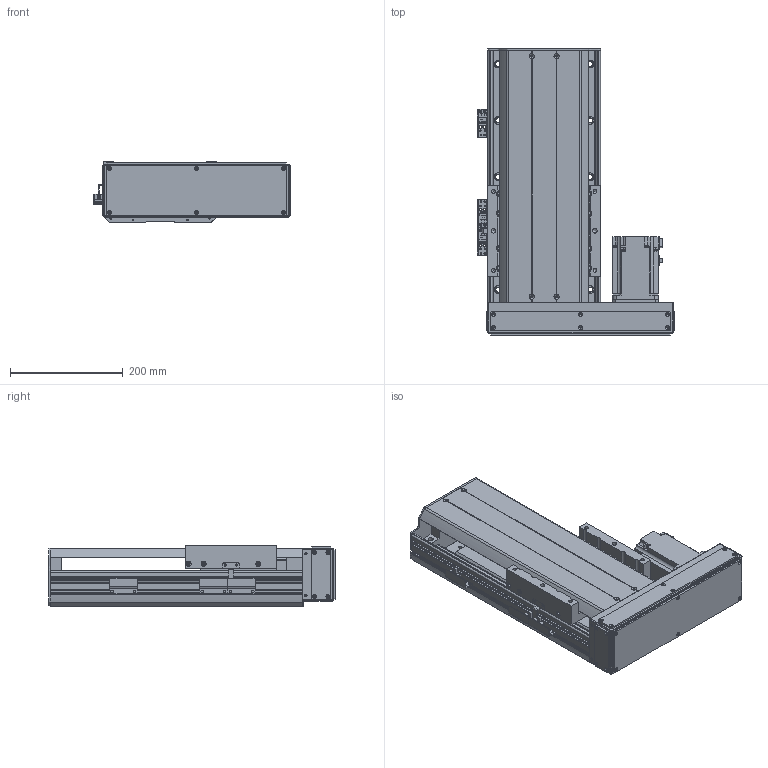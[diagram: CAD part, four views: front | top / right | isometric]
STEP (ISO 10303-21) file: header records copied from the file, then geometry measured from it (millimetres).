
FILE_DESCRIPTION(/* description */ ('MANUFACTURE'),/* implementation_level */ '2;1');
FILE_NAME(/* name */ '\\192.168.0.160\disk1\HAN SHIN Master\B-설계부문\C-표준\B-2024년\BC02-표준도면\+로봇 개선표준도면\홈페이지 표준 도면\홈페이지 최종 작업 폴더\3D\HR\HR200\HG200병렬\우병렬\HR200-R70-N-0200-L10.stp',/* time_stamp */ '2025-01-18T11:28:49+09:00',/* author */ ('user'),/* organization */ (''),/* preprocessor_version */ 'ST-DEVELOPER v18.1',/* originating_system */ 'Autodesk Inventor 2022',/* authorisation */ 'LIP');
FILE_SCHEMA (('AUTOMOTIVE_DESIGN { 1 0 10303 214 3 1 1 }'));
Products named in the file (19): HG200-L70-N-0500-R10; HR200 S BASE-개선; HR180 FRONT BLOCK; HR180 FRONT BLOCK_1; HR200 S UPCOVER; HR200 TABLE (W,N); 750W MOTOR PLATE; HG200 750W LR MOTOR PLATE-사출; hg-kr73_; 화살표; HR160 400W LR BELT COVER; HR200 ACRYL COVER -1; HR200 ACRYL COVER -1_1; HR200 ACRYL COVER -1_2; HG200 BOTTOM COVER; HR200 SENSOR DOG; SENSOR BRK(EE-SX674A); EE_SX674A; HR200 FRONT COVER
Assembly tree (24 placements, depth 2):
  HG200-L70-N-0500-R10
    HR200 S BASE-개선
    HR180 FRONT BLOCK
    HR180 FRONT BLOCK_1
    HR200 S UPCOVER
    HR200 TABLE (W,N)
    750W MOTOR PLATE
    HG200 750W LR MOTOR PLATE-사출
    hg-kr73_
    화살표  x2
    HR160 400W LR BELT COVER
    HR200 ACRYL COVER -1
    HR200 ACRYL COVER -1_1
    HR200 ACRYL COVER -1_2  x2
    HG200 BOTTOM COVER
    HR200 SENSOR DOG
    EE_SX674A  x3
    SENSOR BRK(EE-SX674A)  x3
    HR200 FRONT COVER
Bounding box: 351 x 508 x 109 mm (x, y, z)
Volume: 4567853.5 mm3; surface area: 1211583.9 mm2
Topology: 24 solids, 24 shells, 3290 faces, 9259 edges, 6123 vertices
Faces by surface type: plane 2464, cylinder 704, cone 118, sphere 4
Full cylindrical faces by diameter (mm): 2.459 x50, 3 x10, 3.242 x18, 3.4 x20, 3.5 x6, 4 x6, 4.134 x10, 4.5 x14, 4.917 x30, 5 x20, 5.5 x5, 5.9 x4, 6 x6, 6.6 x24, 6.647 x20, 7 x4, 7.6 x4, 8 x4, 9 x22, 9.5 x1, 11 x24, 14 x10, 19 x1, 25 x1, 27 x1, 30 x1, 32 x1, 38 x1, 42 x2, 44.5 x1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
Entity records: 102032 total; most frequent: CARTESIAN_POINT 19113, ORIENTED_EDGE 17310, DIRECTION 16119, EDGE_CURVE 8655, LINE 7171, VECTOR 7171, VERTEX_POINT 5775, AXIS2_PLACEMENT_3D 4474
